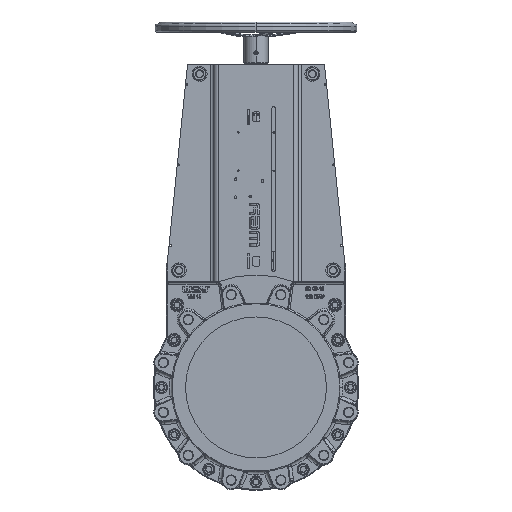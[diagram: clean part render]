
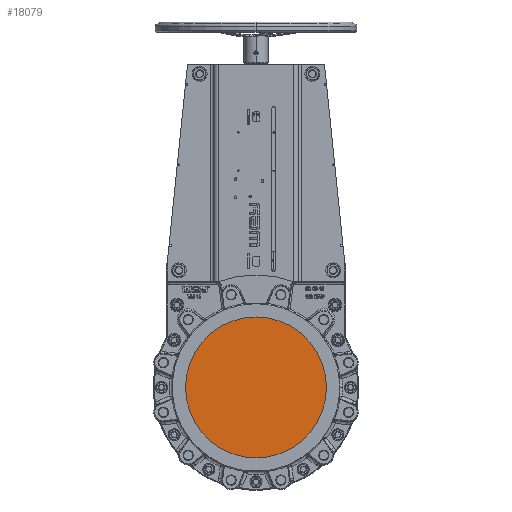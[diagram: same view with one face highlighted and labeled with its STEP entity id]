
A CAD part, top view. The second image highlights one B-rep face of the part: STEP entity #18079.
In plain terms, the highlighted planar face has unit normal (0, 0, 1).
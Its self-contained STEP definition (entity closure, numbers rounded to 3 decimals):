
#706 = ORIENTED_EDGE ( 'NONE', *, *, #100649, .T. ) ;
#6067 = CARTESIAN_POINT ( 'NONE',  ( 0., 0., -0.25 ) ) ;
#10830 = EDGE_CURVE ( 'NONE', #124573, #79976, #21252, .T. ) ;
#13190 = CARTESIAN_POINT ( 'NONE',  ( -175., 0., -0.25 ) ) ;
#17259 = DIRECTION ( 'NONE',  ( 0., 0., 1. ) ) ;
#17260 = DIRECTION ( 'NONE',  ( 1., 0., 0. ) ) ;
#18000 = PLANE ( 'NONE',  #80158 ) ;
#18079 = ADVANCED_FACE ( 'NONE', ( #44764 ), #18000, .T. ) ;
#21252 = CIRCLE ( 'NONE', #30291, 175. ) ;
#30291 = AXIS2_PLACEMENT_3D ( 'NONE', #6067, #83541, #17260 ) ;
#35093 = AXIS2_PLACEMENT_3D ( 'NONE', #83539, #17259, #94694 ) ;
#44764 = FACE_OUTER_BOUND ( 'NONE', #59275, .T. ) ;
#51370 = DIRECTION ( 'NONE',  ( 1., 0., 0. ) ) ;
#59275 = EDGE_LOOP ( 'NONE', ( #66925, #706 ) ) ;
#66925 = ORIENTED_EDGE ( 'NONE', *, *, #10830, .T. ) ;
#67881 = CARTESIAN_POINT ( 'NONE',  ( 175., 0., -0.25 ) ) ;
#73216 = CARTESIAN_POINT ( 'NONE',  ( 0., 0., -0.25 ) ) ;
#79976 = VERTEX_POINT ( 'NONE', #67881 ) ;
#80158 = AXIS2_PLACEMENT_3D ( 'NONE', #73216, #117526, #51370 ) ;
#83539 = CARTESIAN_POINT ( 'NONE',  ( 0., 0., -0.25 ) ) ;
#83541 = DIRECTION ( 'NONE',  ( 0., 0., 1. ) ) ;
#94694 = DIRECTION ( 'NONE',  ( 1., 0., 0. ) ) ;
#100649 = EDGE_CURVE ( 'NONE', #79976, #124573, #109781, .T. ) ;
#109781 = CIRCLE ( 'NONE', #35093, 175. ) ;
#117526 = DIRECTION ( 'NONE',  ( 0., 0., 1. ) ) ;
#124573 = VERTEX_POINT ( 'NONE', #13190 ) ;
